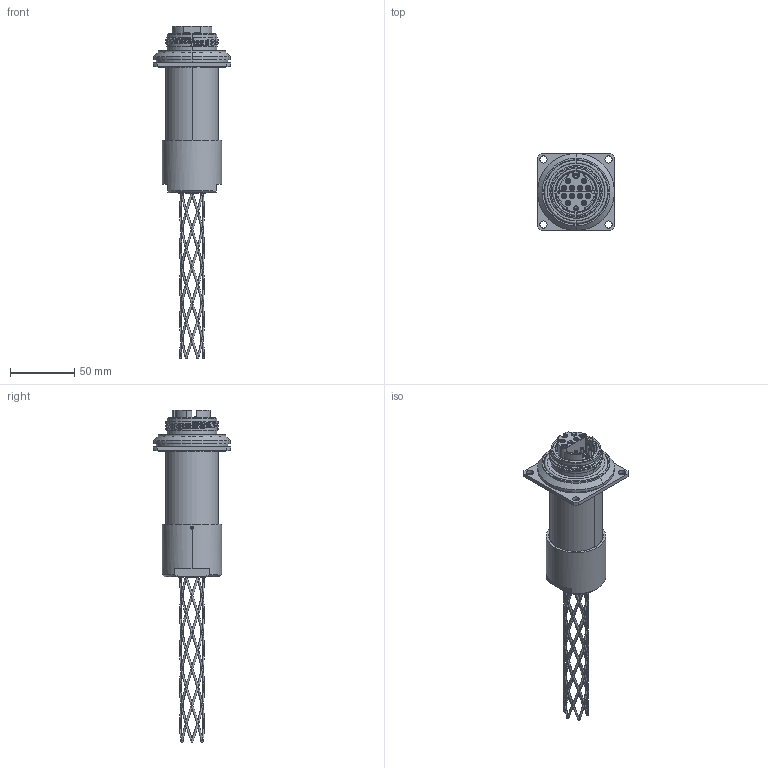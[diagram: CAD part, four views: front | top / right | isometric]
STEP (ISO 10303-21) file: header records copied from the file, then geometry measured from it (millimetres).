
FILE_DESCRIPTION (( 'STEP AP214' ), '1' );
FILE_NAME ('QFOCA-G1-RHXX-12CH-X-GXXX.STEP', '2025-06-06T01:44:08', ( '' ), ( '' ), 'SwSTEP 2.0', 'SolidWorks 2024', '' );
FILE_SCHEMA (( 'AUTOMOTIVE_DESIGN' ));
Length unit declared in the file: inch
Products named in the file (1): QFOCA-G1-RHXX-12CH-X-GXXX
Bounding box: 60.2 x 60.2 x 259.12 mm (x, y, z)
Volume: 193733.1 mm3; surface area: 44705.9 mm2
Topology: 1 solids, 12 shells, 827 faces, 2077 edges, 1204 vertices
Faces by surface type: bspline 226, cylinder 225, plane 154, cone 118, torus 104
Entity records: 120786 total; most frequent: CARTESIAN_POINT 103220, ORIENTED_EDGE 4146, DIRECTION 3299, EDGE_CURVE 2073, AXIS2_PLACEMENT_3D 1381, VERTEX_POINT 1204, EDGE_LOOP 903, FACE_OUTER_BOUND 827
